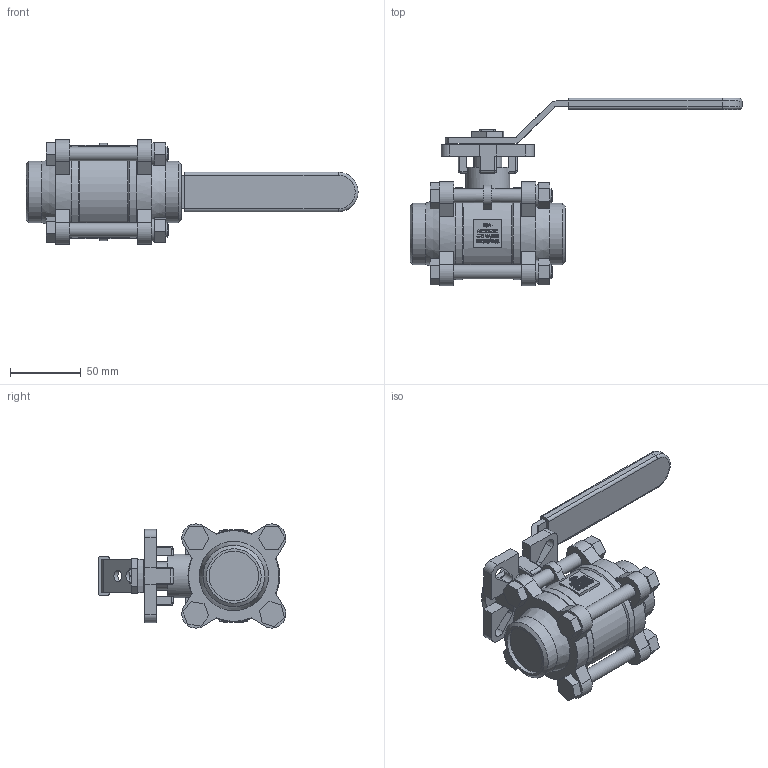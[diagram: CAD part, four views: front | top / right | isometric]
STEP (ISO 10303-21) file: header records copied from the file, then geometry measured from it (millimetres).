
FILE_DESCRIPTION((''),'2;1');
FILE_NAME('K:\Inventor\1 Artikel\11) Muffen-Kugelhähne\11a) manuell\Econosto\470-VABW, 7644ISO\470-VABW, DN32\470-VABW, DN32, 3D\470-VABW, DN32, PN68, HH, 3D.stp','2019-10-23T10:50:35',('claudia'),(''),'Autodesk Inventor 2013','Autodesk Inventor 2013','');
FILE_SCHEMA(('AUTOMOTIVE_DESIGN { 1 0 10303 214 1 1 1 1 }'));
Length unit declared in the file: millimetre
Products named in the file (1): Bauteil11
Bounding box: 235 x 132.96 x 73.71 mm (x, y, z)
Volume: 410665.1 mm3; surface area: 71178.2 mm2
Topology: 1 solids, 1 shells, 1504 faces, 4059 edges, 2687 vertices
Faces by surface type: plane 895, bspline 513, cylinder 84, cone 10, torus 2
Full cylindrical faces by diameter (mm): 8 x2, 10 x10, 16 x4, 20 x1, 31 x1, 32 x1, 35.1 x2, 43.5 x2, 63 x1, 64 x2, 65 x2
Entity records: 50918 total; most frequent: CARTESIAN_POINT 16610, ORIENTED_EDGE 8012, DIRECTION 5189, EDGE_CURVE 4006, VECTOR 2751, LINE 2751, VERTEX_POINT 2673, EDGE_LOOP 1705
